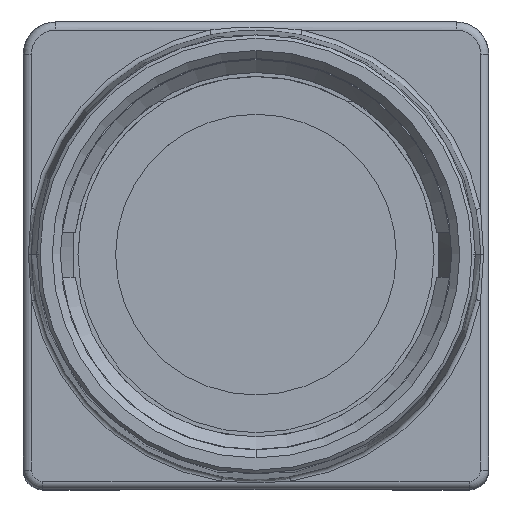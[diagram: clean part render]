
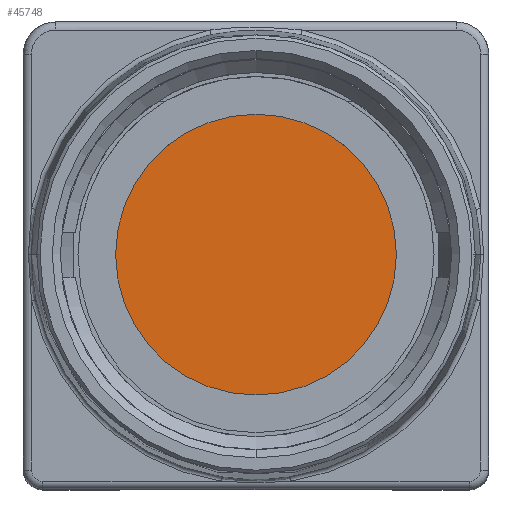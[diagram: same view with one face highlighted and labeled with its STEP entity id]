
A CAD part, top view. The second image highlights one B-rep face of the part: STEP entity #45748.
In plain terms, the highlighted planar face has unit normal (0, 0, 1).
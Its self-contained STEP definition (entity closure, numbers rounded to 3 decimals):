
#11010=CARTESIAN_POINT('',(0.,0.,-1.8));
#11011=DIRECTION('',(0.,0.,1.));
#11012=DIRECTION('',(-1.,0.,0.));
#11013=AXIS2_PLACEMENT_3D('',#11010,#11011,#11012);
#11018=CARTESIAN_POINT('',(0.,0.,-1.8));
#11019=DIRECTION('',(0.,0.,1.));
#11020=DIRECTION('',(1.,0.,0.));
#11021=AXIS2_PLACEMENT_3D('',#11018,#11019,#11020);
#30741=CARTESIAN_POINT('',(-8.75,0.,-1.8));
#30742=CARTESIAN_POINT('',(8.75,0.,-1.8));
#30743=VERTEX_POINT('',#30741);
#30744=VERTEX_POINT('',#30742);
#45737=CARTESIAN_POINT('',(0.,0.,-1.8));
#45738=DIRECTION('',(0.,0.,-1.));
#45739=DIRECTION('',(-1.,0.,0.));
#45740=AXIS2_PLACEMENT_3D('',#45737,#45738,#45739);
#45741=PLANE('',#45740);
#45743=ORIENTED_EDGE('',*,*,#45742,.F.);
#45745=ORIENTED_EDGE('',*,*,#45744,.F.);
#45746=EDGE_LOOP('',(#45743,#45745));
#45747=FACE_OUTER_BOUND('',#45746,.F.);
#45748=ADVANCED_FACE('',(#45747),#45741,.F.);
#11014=CIRCLE('',#11013,8.75);
#11022=CIRCLE('',#11021,8.75);
#45742=EDGE_CURVE('',#30743,#30744,#11014,.T.);
#45744=EDGE_CURVE('',#30744,#30743,#11022,.T.);
